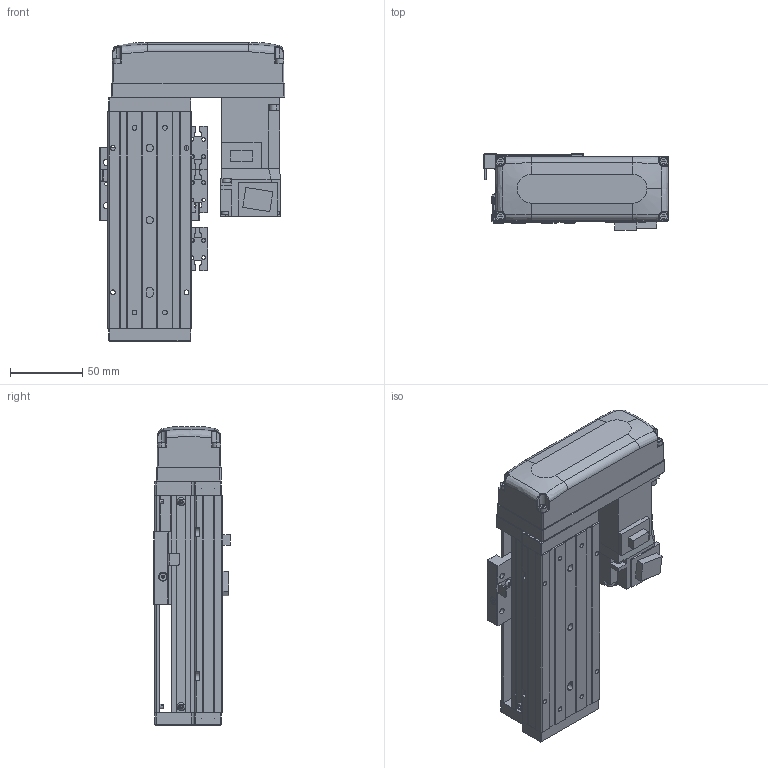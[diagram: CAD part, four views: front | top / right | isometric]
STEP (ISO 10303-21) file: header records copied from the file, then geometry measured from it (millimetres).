
FILE_DESCRIPTION (( 'STEP AP203' ), '1' );
FILE_NAME ('KTHA50-50-BL-M10-C4L.step', '2022-03-19T07:06:45', ( '微软用户' ), ( '微软中国' ), 'SwSTEP 2.0', 'SolidWorks 2020', '' );
FILE_SCHEMA (( 'CONFIG_CONTROL_DESIGN' ));
Length unit declared in the file: millimetre
Products named in the file (18): GBT77-2000 M3×3; HG-KR13（三菱）; KTHA50-001_150; GBT 70.1-M3℅6; CTHA50-015-2_CTHA60-015-2; KTHA50-002; CTHA60-017; CTHA60-033; KTHA50-004; GBT 70.1-M4×12; GBT 70.1-M3×15; KTHA50-005; CTHA60-016; KTHA50-50-BL-M10-C4L; GB¨uT 70.2-M3¡Á6_M3¡Á6; CTHA60-021; EE_SX911P_R; GBT 70.3-M3℅6
Assembly tree (53 placements, depth 2):
  KTHA50-50-BL-M10-C4L
    KTHA50-001_150
    KTHA50-002
    KTHA50-004
    KTHA50-005
    GB¨uT 70.2-M3¡Á6_M3¡Á6  x6
    EE_SX911P_R  x3
    GBT77-2000 M3×3  x6
    GBT 70.1-M3℅6  x6
    CTHA60-017  x3
    GBT 70.1-M4×12  x10
    CTHA60-016  x2
    CTHA60-021  x2
    GBT 70.3-M3℅6  x4
    HG-KR13（三菱）
    CTHA50-015-2_CTHA60-015-2
    CTHA60-033
    GBT 70.1-M3×15  x4
Bounding box: 128.4 x 53.3 x 207 mm (x, y, z)
Volume: 633899.9 mm3; surface area: 157450.5 mm2
Topology: 56 solids, 56 shells, 2183 faces, 5127 edges, 3136 vertices
Faces by surface type: plane 1216, cylinder 526, cone 299, torus 100, bspline 26, sphere 16
Entity records: 35651 total; most frequent: CARTESIAN_POINT 6786, DIRECTION 5525, ORIENTED_EDGE 5266, EDGE_CURVE 2633, AXIS2_PLACEMENT_3D 1891, VECTOR 1743, LINE 1743, VERTEX_POINT 1650
